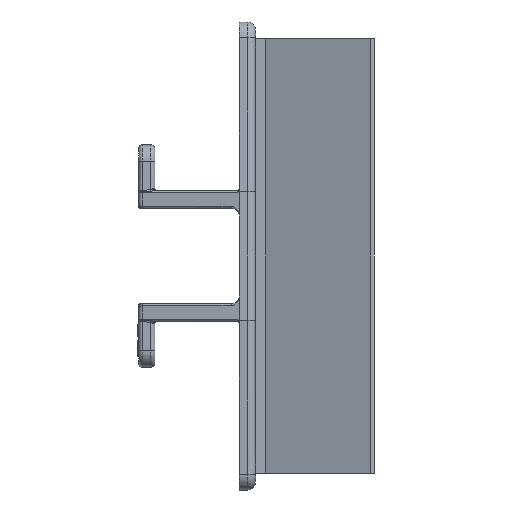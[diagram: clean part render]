
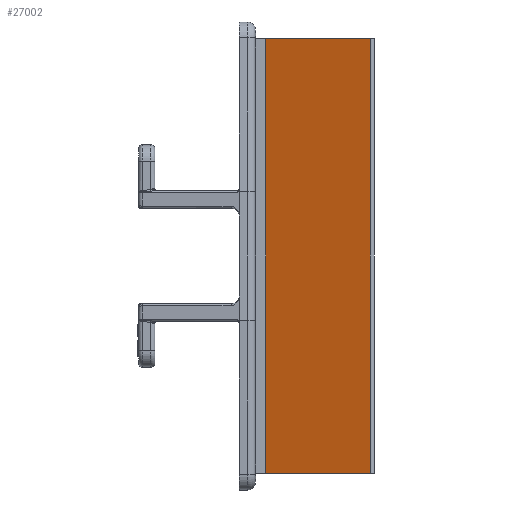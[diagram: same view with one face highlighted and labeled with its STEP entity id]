
A CAD part, front view. The second image highlights one B-rep face of the part: STEP entity #27002.
In plain terms, the highlighted planar face has unit normal (-0.34, -0.941, 0).
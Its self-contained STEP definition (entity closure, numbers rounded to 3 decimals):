
#26667=DIRECTION('',(-0.941,0.34,0.));
#26668=VECTOR('',#26667,27.106);
#26669=CARTESIAN_POINT('',(31.975,-21.705,53.));
#26670=LINE('',#26669,#26668);
#26687=DIRECTION('',(0.,0.,-1.));
#26688=VECTOR('',#26687,106.);
#26689=CARTESIAN_POINT('',(6.48,-12.5,53.));
#26690=LINE('',#26689,#26688);
#26691=DIRECTION('',(0.,0.,-1.));
#26692=VECTOR('',#26691,106.);
#26693=CARTESIAN_POINT('',(31.975,-21.705,53.));
#26694=LINE('',#26693,#26692);
#26763=DIRECTION('',(-0.941,0.34,0.));
#26764=VECTOR('',#26763,27.106);
#26765=CARTESIAN_POINT('',(31.975,-21.705,-53.));
#26766=LINE('',#26765,#26764);
#26860=CARTESIAN_POINT('',(31.975,-21.705,53.));
#26861=VERTEX_POINT('',#26860);
#26862=CARTESIAN_POINT('',(6.48,-12.5,53.));
#26863=VERTEX_POINT('',#26862);
#26896=CARTESIAN_POINT('',(31.975,-21.705,-53.));
#26897=VERTEX_POINT('',#26896);
#26898=CARTESIAN_POINT('',(6.48,-12.5,-53.));
#26899=VERTEX_POINT('',#26898);
#26989=CARTESIAN_POINT('',(31.975,-21.705,53.));
#26990=DIRECTION('',(-0.34,-0.941,0.));
#26991=DIRECTION('',(-0.941,0.34,0.));
#26992=AXIS2_PLACEMENT_3D('',#26989,#26990,#26991);
#26993=PLANE('',#26992);
#26994=ORIENTED_EDGE('',*,*,#26937,.F.);
#26996=ORIENTED_EDGE('',*,*,#26995,.T.);
#26998=ORIENTED_EDGE('',*,*,#26997,.T.);
#26999=ORIENTED_EDGE('',*,*,#26981,.F.);
#27000=EDGE_LOOP('',(#26994,#26996,#26998,#26999));
#27001=FACE_OUTER_BOUND('',#27000,.F.);
#27002=ADVANCED_FACE('',(#27001),#26993,.T.);
#26937=EDGE_CURVE('',#26861,#26863,#26670,.T.);
#26981=EDGE_CURVE('',#26863,#26899,#26690,.T.);
#26995=EDGE_CURVE('',#26861,#26897,#26694,.T.);
#26997=EDGE_CURVE('',#26897,#26899,#26766,.T.);
